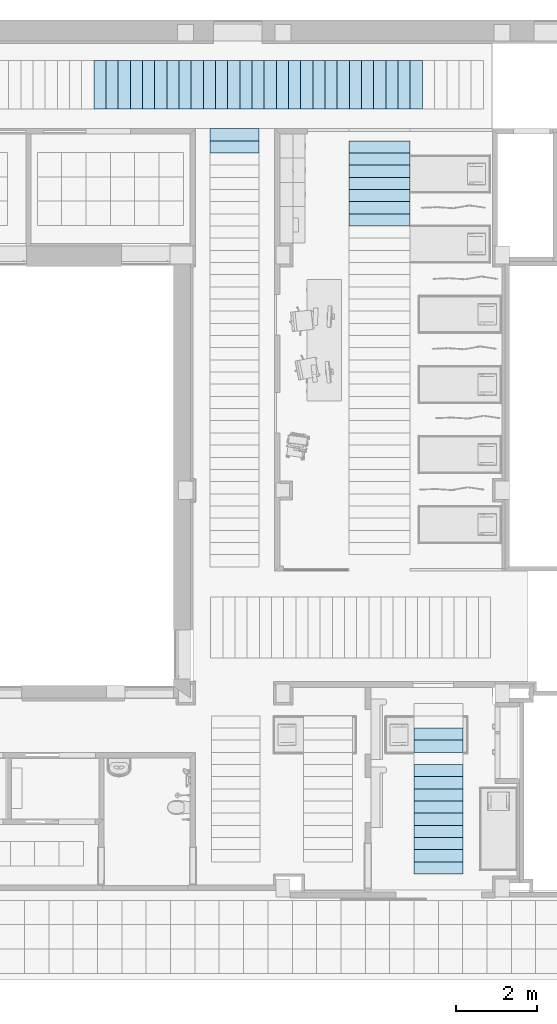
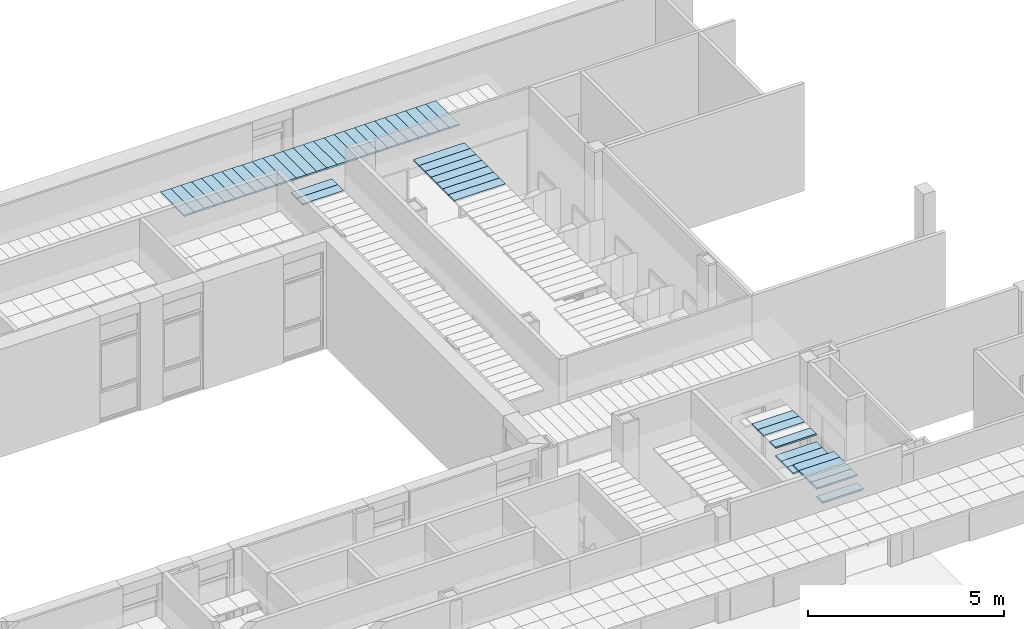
# One storey, part 12 of 68: 47 slabs.
"""IFC2X3 building model written with IfcOpenShell, lengths in millimetres."""

from ifc_helpers import new_model, entity, si_unit, converted_unit, derived_unit, money_unit, direction, frame, origin_with_axes, place, context, subcontext, project, spatial, polyline, outline, extrude, material, layer, layer_set, layer_usage, type_object, element, save


model = new_model("IFC2X3")

# Units and contexts
model_context = context("Model", 3, precision=0.01, world=origin_with_axes(), true_north=direction((0.0, 1.0)))
body_context = subcontext(model_context, "Body", "Model", "MODEL_VIEW")
ifc_project = project(units=[si_unit("LENGTHUNIT", "METRE", prefix="MILLI"), si_unit("AREAUNIT", "SQUARE_METRE"), si_unit("VOLUMEUNIT", "CUBIC_METRE"), converted_unit("PLANEANGLEUNIT", "DEGREE", entity("IfcPlaneAngleMeasure", 0.0174532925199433), si_unit("PLANEANGLEUNIT", "RADIAN"), dimensions=[0, 0, 0, 0, 0, 0, 0]), money_unit("USD"), converted_unit("TIMEUNIT", "Year", entity("IfcTimeMeasure", 31557600.0), si_unit("TIMEUNIT", "SECOND"), dimensions=[0, 0, 1, 0, 0, 0, 0]), si_unit("MASSUNIT", "GRAM", prefix="KILO"), si_unit("THERMODYNAMICTEMPERATUREUNIT", "DEGREE_CELSIUS"), si_unit("LUMINOUSINTENSITYUNIT", "LUMEN"), si_unit("ENERGYUNIT", "JOULE", prefix="MEGA"), derived_unit("THERMALCONDUCTANCEUNIT", [(si_unit("POWERUNIT", "WATT"), 1), (si_unit("LENGTHUNIT", "METRE"), -1), (si_unit("THERMODYNAMICTEMPERATUREUNIT", "KELVIN"), -1)]), derived_unit("SPECIFICHEATCAPACITYUNIT", [(si_unit("ENERGYUNIT", "JOULE"), 1), (si_unit("MASSUNIT", "GRAM", prefix="KILO"), -1), (si_unit("THERMODYNAMICTEMPERATUREUNIT", "KELVIN"), -1)]), derived_unit("MASSDENSITYUNIT", [(si_unit("MASSUNIT", "GRAM", prefix="KILO"), 1), (si_unit("VOLUMEUNIT", "CUBIC_METRE"), -1)])], contexts=[model_context])

# Site, building, storey
site_placement = place(None, origin_with_axes())
site = spatial("IfcSite", under=ifc_project, at=site_placement, Name="Sitio", CompositionType="ELEMENT")
building_placement = place(site_placement, origin_with_axes())
building = spatial("IfcBuilding", under=site, at=building_placement, Name="Construcción", CompositionType="ELEMENT")
storey_placement = place(building_placement, origin_with_axes())
storey = spatial("IfcBuildingStorey", under=building, at=storey_placement, Name="PLANTA 1ª", CompositionType="ELEMENT", Elevation=0.0)

# Slabs
ifc_material = material(Name="ARQ_ME126_CelRas_Placa_Metallica")
ifc_layer = layer(ifc_material, 50.0, ventilated="UNKNOWN")
ifc_layer_set = layer_set([ifc_layer], Name="ARQ_ME126_CelRas_Placa_Metallica 50")
ifc_layer_usage_1 = layer_usage(ifc_layer_set, "AXIS3", "NEGATIVE", 50.0)
slab_type = type_object("IfcSlabType", Name="ARQ_ME126_CelRas_Placa_Metallica 50", PredefinedType="NOTDEFINED")
slab_1_placement = place(storey_placement, frame((3832.900750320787, -16671.4759060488, 2250.0), z_axis=(0.0, 0.0, 1.0), x_axis=(1.0, 0.0, 0.0)))
element("IfcSlab", 1, at=slab_1_placement, inside=storey, type_object=slab_type, material=ifc_layer_usage_1, Name="SLA - 026", PredefinedType="NOTDEFINED", context=body_context, shape_type="SweptSolid", body=[
    extrude(outline(polyline([(0.0, 0.0), (1199.999999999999, 0.0), (1199.999999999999, 299.9999999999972), (0.0, 299.9999999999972), (0.0, 0.0)])), frame((0.0, 0.0, -50.0), z_axis=(0.0, 0.0, 1.0), x_axis=(1.0, 0.0, 0.0)), (0.0, 0.0, 1.0), 50.0),
])
ifc_layer_usage_2 = layer_usage(ifc_layer_set, "AXIS3", "NEGATIVE", 50.0)
slab_2_placement = place(storey_placement, frame((3832.900750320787, -16371.4759060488, 2500.0), z_axis=(0.0, 0.0, 1.0), x_axis=(1.0, 0.0, 0.0)))
element("IfcSlab", 2, at=slab_2_placement, inside=storey, type_object=slab_type, material=ifc_layer_usage_2, Name="SLA - 026", PredefinedType="NOTDEFINED", context=body_context, shape_type="SweptSolid", body=[
    extrude(outline(polyline([(0.0, 0.0), (1199.999999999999, 0.0), (1199.999999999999, 299.9999999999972), (0.0, 299.9999999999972), (0.0, 0.0)])), frame((0.0, 0.0, -50.0), z_axis=(0.0, 0.0, 1.0), x_axis=(1.0, 0.0, 0.0)), (0.0, 0.0, 1.0), 50.0),
])
ifc_layer_usage_3 = layer_usage(ifc_layer_set, "AXIS3", "NEGATIVE", 50.0)
slab_3_placement = place(storey_placement, frame((3832.900750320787, -15771.4759060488, 2500.0), z_axis=(0.0, 0.0, 1.0), x_axis=(1.0, 0.0, 0.0)))
element("IfcSlab", 3, at=slab_3_placement, inside=storey, type_object=slab_type, material=ifc_layer_usage_3, Name="SLA - 026", PredefinedType="NOTDEFINED", context=body_context, shape_type="SweptSolid", body=[
    extrude(outline(polyline([(0.0, 0.0), (1199.999999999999, 0.0), (1199.999999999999, 299.9999999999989), (0.0, 299.9999999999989), (0.0, 0.0)])), frame((0.0, 0.0, -50.0), z_axis=(0.0, 0.0, 1.0), x_axis=(1.0, 0.0, 0.0)), (0.0, 0.0, 1.0), 50.0),
])
ifc_layer_usage_4 = layer_usage(ifc_layer_set, "AXIS3", "NEGATIVE", 50.0)
slab_4_placement = place(storey_placement, frame((3832.900750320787, -15471.4759060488, 2500.0), z_axis=(0.0, 0.0, 1.0), x_axis=(1.0, 0.0, 0.0)))
element("IfcSlab", 4, at=slab_4_placement, inside=storey, type_object=slab_type, material=ifc_layer_usage_4, Name="SLA - 026", PredefinedType="NOTDEFINED", context=body_context, shape_type="SweptSolid", body=[
    extrude(outline(polyline([(0.0, 0.0), (1199.999999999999, 0.0), (1199.999999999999, 299.9999999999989), (0.0, 299.9999999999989), (0.0, 0.0)])), frame((0.0, 0.0, -50.0), z_axis=(0.0, 0.0, 1.0), x_axis=(1.0, 0.0, 0.0)), (0.0, 0.0, 1.0), 50.0),
])
ifc_layer_usage_5 = layer_usage(ifc_layer_set, "AXIS3", "NEGATIVE", 50.0)
slab_5_placement = place(storey_placement, frame((3832.900750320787, -16071.4759060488, 2500.0), z_axis=(0.0, 0.0, 1.0), x_axis=(1.0, 0.0, 0.0)))
element("IfcSlab", 5, at=slab_5_placement, inside=storey, type_object=slab_type, material=ifc_layer_usage_5, Name="SLA - 026", PredefinedType="NOTDEFINED", context=body_context, shape_type="SweptSolid", body=[
    extrude(outline(polyline([(0.0, 0.0), (1199.999999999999, 0.0), (1199.999999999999, 299.9999999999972), (0.0, 299.9999999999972), (0.0, 0.0)])), frame((0.0, 0.0, -50.0), z_axis=(0.0, 0.0, 1.0), x_axis=(1.0, 0.0, 0.0)), (0.0, 0.0, 1.0), 50.0),
])
ifc_layer_usage_6 = layer_usage(ifc_layer_set, "AXIS3", "NEGATIVE", 50.0)
slab_6_placement = place(storey_placement, frame((3832.900750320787, -14871.4759060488, 2250.0), z_axis=(0.0, 0.0, 1.0), x_axis=(1.0, 0.0, 0.0)))
element("IfcSlab", 6, at=slab_6_placement, inside=storey, type_object=slab_type, material=ifc_layer_usage_6, Name="SLA - 026", PredefinedType="NOTDEFINED", context=body_context, shape_type="SweptSolid", body=[
    extrude(outline(polyline([(0.0, 0.0), (1199.999999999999, 0.0), (1199.999999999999, 299.9999999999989), (0.0, 299.9999999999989), (0.0, 0.0)])), frame((0.0, 0.0, -50.0), z_axis=(0.0, 0.0, 1.0), x_axis=(1.0, 0.0, 0.0)), (0.0, 0.0, 1.0), 50.0),
])
ifc_layer_usage_7 = layer_usage(ifc_layer_set, "AXIS3", "NEGATIVE", 50.0)
slab_7_placement = place(storey_placement, frame((3832.900750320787, -14571.4759060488, 2250.0), z_axis=(0.0, 0.0, 1.0), x_axis=(1.0, 0.0, 0.0)))
element("IfcSlab", 7, at=slab_7_placement, inside=storey, type_object=slab_type, material=ifc_layer_usage_7, Name="SLA - 026", PredefinedType="NOTDEFINED", context=body_context, shape_type="SweptSolid", body=[
    extrude(outline(polyline([(0.0, 0.0), (1199.999999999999, 0.0), (1199.999999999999, 299.9999999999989), (0.0, 299.9999999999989), (0.0, 0.0)])), frame((0.0, 0.0, -50.0), z_axis=(0.0, 0.0, 1.0), x_axis=(1.0, 0.0, 0.0)), (0.0, 0.0, 1.0), 50.0),
])
ifc_layer_usage_8 = layer_usage(ifc_layer_set, "AXIS3", "NEGATIVE", 50.0)
slab_8_placement = place(storey_placement, frame((3832.900750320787, -14271.4759060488, 2500.0), z_axis=(0.0, 0.0, 1.0), x_axis=(1.0, 0.0, 0.0)))
element("IfcSlab", 8, at=slab_8_placement, inside=storey, type_object=slab_type, material=ifc_layer_usage_8, Name="SLA - 026", PredefinedType="NOTDEFINED", context=body_context, shape_type="SweptSolid", body=[
    extrude(outline(polyline([(0.0, 0.0), (1199.999999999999, 0.0), (1199.999999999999, 299.9999999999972), (0.0, 299.9999999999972), (0.0, 0.0)])), frame((0.0, 0.0, -50.0), z_axis=(0.0, 0.0, 1.0), x_axis=(1.0, 0.0, 0.0)), (0.0, 0.0, 1.0), 50.0),
])
ifc_layer_usage_9 = layer_usage(ifc_layer_set, "AXIS3", "NEGATIVE", 50.0)
slab_9_placement = place(storey_placement, frame((3832.900750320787, -15171.4759060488, 2250.0), z_axis=(0.0, 0.0, 1.0), x_axis=(1.0, 0.0, 0.0)))
element("IfcSlab", 9, at=slab_9_placement, inside=storey, type_object=slab_type, material=ifc_layer_usage_9, Name="SLA - 026", PredefinedType="NOTDEFINED", context=body_context, shape_type="SweptSolid", body=[
    extrude(outline(polyline([(0.0, 0.0), (1199.999999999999, 0.0), (1199.999999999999, 299.9999999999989), (0.0, 299.9999999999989), (0.0, 0.0)])), frame((0.0, 0.0, -50.0), z_axis=(0.0, 0.0, 1.0), x_axis=(1.0, 0.0, 0.0)), (0.0, 0.0, 1.0), 50.0),
])
ifc_layer_usage_10 = layer_usage(ifc_layer_set, "AXIS3", "NEGATIVE", 50.0)
slab_10_placement = place(storey_placement, frame((3832.900750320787, -13671.4759060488, 2500.0), z_axis=(0.0, 0.0, 1.0), x_axis=(1.0, 0.0, 0.0)))
element("IfcSlab", 10, at=slab_10_placement, inside=storey, type_object=slab_type, material=ifc_layer_usage_10, Name="SLA - 026", PredefinedType="NOTDEFINED", context=body_context, shape_type="SweptSolid", body=[
    extrude(outline(polyline([(0.0, 0.0), (1199.999999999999, 0.0), (1199.999999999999, 299.9999999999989), (0.0, 299.9999999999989), (0.0, 0.0)])), frame((0.0, 0.0, -50.0), z_axis=(0.0, 0.0, 1.0), x_axis=(1.0, 0.0, 0.0)), (0.0, 0.0, 1.0), 50.0),
])
ifc_layer_usage_11 = layer_usage(ifc_layer_set, "AXIS3", "NEGATIVE", 50.0)
slab_11_placement = place(storey_placement, frame((3832.900750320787, -13371.4759060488, 2500.0), z_axis=(0.0, 0.0, 1.0), x_axis=(1.0, 0.0, 0.0)))
element("IfcSlab", 11, at=slab_11_placement, inside=storey, type_object=slab_type, material=ifc_layer_usage_11, Name="SLA - 026", PredefinedType="NOTDEFINED", context=body_context, shape_type="SweptSolid", body=[
    extrude(outline(polyline([(0.0, 0.0), (1199.999999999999, 0.0), (1199.999999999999, 299.9999999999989), (0.0, 299.9999999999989), (0.0, 0.0)])), frame((0.0, 0.0, -50.0), z_axis=(0.0, 0.0, 1.0), x_axis=(1.0, 0.0, 0.0)), (0.0, 0.0, 1.0), 50.0),
])
ifc_layer_usage_12 = layer_usage(ifc_layer_set, "AXIS3", "NEGATIVE", 50.0)
slab_12_placement = place(storey_placement, frame((-1192.609613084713, 1100.853055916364, 2500.0), z_axis=(0.0, 0.0, 1.0), x_axis=(1.0, 0.0, 0.0)))
element("IfcSlab", 12, at=slab_12_placement, inside=storey, type_object=slab_type, material=ifc_layer_usage_12, Name="SLA - 026", PredefinedType="NOTDEFINED", context=body_context, shape_type="SweptSolid", body=[
    extrude(outline(polyline([(0.0, 0.0), (1200.0, 0.0), (1200.0, 299.9999999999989), (0.0, 299.9999999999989), (0.0, 0.0)])), frame((0.0, 0.0, -50.0), z_axis=(0.0, 0.0, 1.0), x_axis=(1.0, 0.0, 0.0)), (0.0, 0.0, 1.0), 50.0),
])
ifc_layer_usage_13 = layer_usage(ifc_layer_set, "AXIS3", "NEGATIVE", 50.0)
slab_13_placement = place(storey_placement, frame((-1192.609613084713, 1400.853055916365, 2500.0), z_axis=(0.0, 0.0, 1.0), x_axis=(1.0, 0.0, 0.0)))
element("IfcSlab", 13, at=slab_13_placement, inside=storey, type_object=slab_type, material=ifc_layer_usage_13, Name="SLA - 026", PredefinedType="NOTDEFINED", context=body_context, shape_type="SweptSolid", body=[
    extrude(outline(polyline([(0.0, 0.0), (1200.0, 0.0), (1200.0, 299.9999999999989), (0.0, 299.9999999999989), (0.0, 0.0)])), frame((0.0, 0.0, -50.0), z_axis=(0.0, 0.0, 1.0), x_axis=(1.0, 0.0, 0.0)), (0.0, 0.0, 1.0), 50.0),
])
ifc_layer_usage_14 = layer_usage(ifc_layer_set, "AXIS3", "NEGATIVE", 50.0)
slab_14_placement = place(storey_placement, frame((3726.829256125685, 1400.853055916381, 2500.0), z_axis=(0.0, 0.0, 1.0), x_axis=(1.0, 0.0, 0.0)))
element("IfcSlab", 14, at=slab_14_placement, inside=storey, type_object=slab_type, material=ifc_layer_usage_14, Name="SLA - 026", PredefinedType="NOTDEFINED", context=body_context, shape_type="SweptSolid", body=[
    extrude(outline(polyline([(0.0, 0.0), (-1500.0, 0.0), (-1500.0, -299.9999999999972), (0.0, -299.9999999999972), (0.0, 0.0)])), frame((0.0, 0.0, -50.0), z_axis=(0.0, 0.0, 1.0), x_axis=(1.0, 0.0, 0.0)), (0.0, 0.0, 1.0), 50.0),
])
ifc_layer_usage_15 = layer_usage(ifc_layer_set, "AXIS3", "NEGATIVE", 50.0)
slab_15_placement = place(storey_placement, frame((-3461.682865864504, 3382.153621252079, 2500.0), z_axis=(0.0, 0.0, 1.0), x_axis=(1.0, 0.0, 0.0)))
element("IfcSlab", 15, at=slab_15_placement, inside=storey, type_object=slab_type, material=ifc_layer_usage_15, Name="SLA - 026", PredefinedType="NOTDEFINED", context=body_context, shape_type="SweptSolid", body=[
    extrude(outline(polyline([(0.0, 0.0), (0.0, -1199.999999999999), (300.0000000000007, -1199.999999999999), (300.0000000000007, 0.0), (0.0, 0.0)])), frame((0.0, 0.0, -50.0), z_axis=(0.0, 0.0, 1.0), x_axis=(1.0, 0.0, 0.0)), (0.0, 0.0, 1.0), 50.0),
])
ifc_layer_usage_16 = layer_usage(ifc_layer_set, "AXIS3", "NEGATIVE", 50.0)
slab_16_placement = place(storey_placement, frame((3738.317134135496, 3382.153621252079, 2500.0), z_axis=(0.0, 0.0, 1.0), x_axis=(1.0, 0.0, 0.0)))
element("IfcSlab", 16, at=slab_16_placement, inside=storey, type_object=slab_type, material=ifc_layer_usage_16, Name="SLA - 026", PredefinedType="NOTDEFINED", context=body_context, shape_type="SweptSolid", body=[
    extrude(outline(polyline([(0.0, 0.0), (0.0, -1199.999999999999), (300.0000000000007, -1199.999999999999), (300.0000000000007, 0.0), (0.0, 0.0)])), frame((0.0, 0.0, -50.0), z_axis=(0.0, 0.0, 1.0), x_axis=(1.0, 0.0, 0.0)), (0.0, 0.0, 1.0), 50.0),
])
ifc_layer_usage_17 = layer_usage(ifc_layer_set, "AXIS3", "NEGATIVE", 50.0)
slab_17_placement = place(storey_placement, frame((3438.317134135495, 3382.153621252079, 2500.0), z_axis=(0.0, 0.0, 1.0), x_axis=(1.0, 0.0, 0.0)))
element("IfcSlab", 17, at=slab_17_placement, inside=storey, type_object=slab_type, material=ifc_layer_usage_17, Name="SLA - 026", PredefinedType="NOTDEFINED", context=body_context, shape_type="SweptSolid", body=[
    extrude(outline(polyline([(0.0, 0.0), (0.0, -1199.999999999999), (300.0000000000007, -1199.999999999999), (300.0000000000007, 0.0), (0.0, 0.0)])), frame((0.0, 0.0, -50.0), z_axis=(0.0, 0.0, 1.0), x_axis=(1.0, 0.0, 0.0)), (0.0, 0.0, 1.0), 50.0),
])
ifc_layer_usage_18 = layer_usage(ifc_layer_set, "AXIS3", "NEGATIVE", 50.0)
slab_18_placement = place(storey_placement, frame((3138.317134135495, 3382.153621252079, 2500.0), z_axis=(0.0, 0.0, 1.0), x_axis=(1.0, 0.0, 0.0)))
element("IfcSlab", 18, at=slab_18_placement, inside=storey, type_object=slab_type, material=ifc_layer_usage_18, Name="SLA - 026", PredefinedType="NOTDEFINED", context=body_context, shape_type="SweptSolid", body=[
    extrude(outline(polyline([(0.0, 0.0), (0.0, -1199.999999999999), (300.0000000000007, -1199.999999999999), (300.0000000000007, 0.0), (0.0, 0.0)])), frame((0.0, 0.0, -50.0), z_axis=(0.0, 0.0, 1.0), x_axis=(1.0, 0.0, 0.0)), (0.0, 0.0, 1.0), 50.0),
])
ifc_layer_usage_19 = layer_usage(ifc_layer_set, "AXIS3", "NEGATIVE", 50.0)
slab_19_placement = place(storey_placement, frame((2838.317134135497, 3382.153621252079, 2500.0), z_axis=(0.0, 0.0, 1.0), x_axis=(1.0, 0.0, 0.0)))
element("IfcSlab", 19, at=slab_19_placement, inside=storey, type_object=slab_type, material=ifc_layer_usage_19, Name="SLA - 026", PredefinedType="NOTDEFINED", context=body_context, shape_type="SweptSolid", body=[
    extrude(outline(polyline([(0.0, 0.0), (0.0, -1199.999999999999), (300.0000000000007, -1199.999999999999), (300.0000000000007, 0.0), (0.0, 0.0)])), frame((0.0, 0.0, -50.0), z_axis=(0.0, 0.0, 1.0), x_axis=(1.0, 0.0, 0.0)), (0.0, 0.0, 1.0), 50.0),
])
ifc_layer_usage_20 = layer_usage(ifc_layer_set, "AXIS3", "NEGATIVE", 50.0)
slab_20_placement = place(storey_placement, frame((2538.317134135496, 3382.153621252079, 2500.0), z_axis=(0.0, 0.0, 1.0), x_axis=(1.0, 0.0, 0.0)))
element("IfcSlab", 20, at=slab_20_placement, inside=storey, type_object=slab_type, material=ifc_layer_usage_20, Name="SLA - 026", PredefinedType="NOTDEFINED", context=body_context, shape_type="SweptSolid", body=[
    extrude(outline(polyline([(0.0, 0.0), (0.0, -1199.999999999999), (300.0000000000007, -1199.999999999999), (300.0000000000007, 0.0), (0.0, 0.0)])), frame((0.0, 0.0, -50.0), z_axis=(0.0, 0.0, 1.0), x_axis=(1.0, 0.0, 0.0)), (0.0, 0.0, 1.0), 50.0),
])
ifc_layer_usage_21 = layer_usage(ifc_layer_set, "AXIS3", "NEGATIVE", 50.0)
slab_21_placement = place(storey_placement, frame((2238.317134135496, 3382.153621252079, 2500.0), z_axis=(0.0, 0.0, 1.0), x_axis=(1.0, 0.0, 0.0)))
element("IfcSlab", 21, at=slab_21_placement, inside=storey, type_object=slab_type, material=ifc_layer_usage_21, Name="SLA - 026", PredefinedType="NOTDEFINED", context=body_context, shape_type="SweptSolid", body=[
    extrude(outline(polyline([(0.0, 0.0), (0.0, -1199.999999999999), (300.0000000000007, -1199.999999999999), (300.0000000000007, 0.0), (0.0, 0.0)])), frame((0.0, 0.0, -50.0), z_axis=(0.0, 0.0, 1.0), x_axis=(1.0, 0.0, 0.0)), (0.0, 0.0, 1.0), 50.0),
])
ifc_layer_usage_22 = layer_usage(ifc_layer_set, "AXIS3", "NEGATIVE", 50.0)
slab_22_placement = place(storey_placement, frame((1938.317134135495, 3382.153621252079, 2500.0), z_axis=(0.0, 0.0, 1.0), x_axis=(1.0, 0.0, 0.0)))
element("IfcSlab", 22, at=slab_22_placement, inside=storey, type_object=slab_type, material=ifc_layer_usage_22, Name="SLA - 026", PredefinedType="NOTDEFINED", context=body_context, shape_type="SweptSolid", body=[
    extrude(outline(polyline([(0.0, 0.0), (0.0, -1199.999999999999), (300.0000000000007, -1199.999999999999), (300.0000000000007, 0.0), (0.0, 0.0)])), frame((0.0, 0.0, -50.0), z_axis=(0.0, 0.0, 1.0), x_axis=(1.0, 0.0, 0.0)), (0.0, 0.0, 1.0), 50.0),
])
ifc_layer_usage_23 = layer_usage(ifc_layer_set, "AXIS3", "NEGATIVE", 50.0)
slab_23_placement = place(storey_placement, frame((1638.317134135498, 3382.153621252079, 2500.0), z_axis=(0.0, 0.0, 1.0), x_axis=(1.0, 0.0, 0.0)))
element("IfcSlab", 23, at=slab_23_placement, inside=storey, type_object=slab_type, material=ifc_layer_usage_23, Name="SLA - 026", PredefinedType="NOTDEFINED", context=body_context, shape_type="SweptSolid", body=[
    extrude(outline(polyline([(0.0, 0.0), (0.0, -1199.999999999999), (300.0000000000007, -1199.999999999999), (300.0000000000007, 0.0), (0.0, 0.0)])), frame((0.0, 0.0, -50.0), z_axis=(0.0, 0.0, 1.0), x_axis=(1.0, 0.0, 0.0)), (0.0, 0.0, 1.0), 50.0),
])
ifc_layer_usage_24 = layer_usage(ifc_layer_set, "AXIS3", "NEGATIVE", 50.0)
slab_24_placement = place(storey_placement, frame((1338.317134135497, 3382.153621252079, 2500.0), z_axis=(0.0, 0.0, 1.0), x_axis=(1.0, 0.0, 0.0)))
element("IfcSlab", 24, at=slab_24_placement, inside=storey, type_object=slab_type, material=ifc_layer_usage_24, Name="SLA - 026", PredefinedType="NOTDEFINED", context=body_context, shape_type="SweptSolid", body=[
    extrude(outline(polyline([(0.0, 0.0), (0.0, -1199.999999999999), (300.0000000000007, -1199.999999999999), (300.0000000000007, 0.0), (0.0, 0.0)])), frame((0.0, 0.0, -50.0), z_axis=(0.0, 0.0, 1.0), x_axis=(1.0, 0.0, 0.0)), (0.0, 0.0, 1.0), 50.0),
])
ifc_layer_usage_25 = layer_usage(ifc_layer_set, "AXIS3", "NEGATIVE", 50.0)
slab_25_placement = place(storey_placement, frame((1038.317134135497, 3382.153621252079, 2500.0), z_axis=(0.0, 0.0, 1.0), x_axis=(1.0, 0.0, 0.0)))
element("IfcSlab", 25, at=slab_25_placement, inside=storey, type_object=slab_type, material=ifc_layer_usage_25, Name="SLA - 026", PredefinedType="NOTDEFINED", context=body_context, shape_type="SweptSolid", body=[
    extrude(outline(polyline([(0.0, 0.0), (0.0, -1199.999999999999), (300.0000000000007, -1199.999999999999), (300.0000000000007, 0.0), (0.0, 0.0)])), frame((0.0, 0.0, -50.0), z_axis=(0.0, 0.0, 1.0), x_axis=(1.0, 0.0, 0.0)), (0.0, 0.0, 1.0), 50.0),
])
ifc_layer_usage_26 = layer_usage(ifc_layer_set, "AXIS3", "NEGATIVE", 50.0)
slab_26_placement = place(storey_placement, frame((738.317134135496, 3382.153621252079, 2500.0), z_axis=(0.0, 0.0, 1.0), x_axis=(1.0, 0.0, 0.0)))
element("IfcSlab", 26, at=slab_26_placement, inside=storey, type_object=slab_type, material=ifc_layer_usage_26, Name="SLA - 026", PredefinedType="NOTDEFINED", context=body_context, shape_type="SweptSolid", body=[
    extrude(outline(polyline([(0.0, 0.0), (0.0, -1199.999999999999), (300.0000000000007, -1199.999999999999), (300.0000000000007, 0.0), (0.0, 0.0)])), frame((0.0, 0.0, -50.0), z_axis=(0.0, 0.0, 1.0), x_axis=(1.0, 0.0, 0.0)), (0.0, 0.0, 1.0), 50.0),
])
ifc_layer_usage_27 = layer_usage(ifc_layer_set, "AXIS3", "NEGATIVE", 50.0)
slab_27_placement = place(storey_placement, frame((438.3171341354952, 3382.153621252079, 2500.0), z_axis=(0.0, 0.0, 1.0), x_axis=(1.0, 0.0, 0.0)))
element("IfcSlab", 27, at=slab_27_placement, inside=storey, type_object=slab_type, material=ifc_layer_usage_27, Name="SLA - 026", PredefinedType="NOTDEFINED", context=body_context, shape_type="SweptSolid", body=[
    extrude(outline(polyline([(0.0, 0.0), (0.0, -1199.999999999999), (300.0000000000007, -1199.999999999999), (300.0000000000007, 0.0), (0.0, 0.0)])), frame((0.0, 0.0, -50.0), z_axis=(0.0, 0.0, 1.0), x_axis=(1.0, 0.0, 0.0)), (0.0, 0.0, 1.0), 50.0),
])
ifc_layer_usage_28 = layer_usage(ifc_layer_set, "AXIS3", "NEGATIVE", 50.0)
slab_28_placement = place(storey_placement, frame((138.3171341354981, 3382.153621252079, 2500.0), z_axis=(0.0, 0.0, 1.0), x_axis=(1.0, 0.0, 0.0)))
element("IfcSlab", 28, at=slab_28_placement, inside=storey, type_object=slab_type, material=ifc_layer_usage_28, Name="SLA - 026", PredefinedType="NOTDEFINED", context=body_context, shape_type="SweptSolid", body=[
    extrude(outline(polyline([(0.0, 0.0), (0.0, -1199.999999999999), (300.0000000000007, -1199.999999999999), (300.0000000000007, 0.0), (0.0, 0.0)])), frame((0.0, 0.0, -50.0), z_axis=(0.0, 0.0, 1.0), x_axis=(1.0, 0.0, 0.0)), (0.0, 0.0, 1.0), 50.0),
])
ifc_layer_usage_29 = layer_usage(ifc_layer_set, "AXIS3", "NEGATIVE", 50.0)
slab_29_placement = place(storey_placement, frame((-761.682865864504, 3382.153621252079, 2500.0), z_axis=(0.0, 0.0, 1.0), x_axis=(1.0, 0.0, 0.0)))
element("IfcSlab", 29, at=slab_29_placement, inside=storey, type_object=slab_type, material=ifc_layer_usage_29, Name="SLA - 026", PredefinedType="NOTDEFINED", context=body_context, shape_type="SweptSolid", body=[
    extrude(outline(polyline([(0.0, 0.0), (0.0, -1199.999999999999), (300.0000000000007, -1199.999999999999), (300.0000000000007, 0.0), (0.0, 0.0)])), frame((0.0, 0.0, -50.0), z_axis=(0.0, 0.0, 1.0), x_axis=(1.0, 0.0, 0.0)), (0.0, 0.0, 1.0), 50.0),
])
ifc_layer_usage_30 = layer_usage(ifc_layer_set, "AXIS3", "NEGATIVE", 50.0)
slab_30_placement = place(storey_placement, frame((-461.6828658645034, 3382.153621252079, 2500.0), z_axis=(0.0, 0.0, 1.0), x_axis=(1.0, 0.0, 0.0)))
element("IfcSlab", 30, at=slab_30_placement, inside=storey, type_object=slab_type, material=ifc_layer_usage_30, Name="SLA - 026", PredefinedType="NOTDEFINED", context=body_context, shape_type="SweptSolid", body=[
    extrude(outline(polyline([(0.0, 0.0), (0.0, -1199.999999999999), (300.0000000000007, -1199.999999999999), (300.0000000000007, 0.0), (0.0, 0.0)])), frame((0.0, 0.0, -50.0), z_axis=(0.0, 0.0, 1.0), x_axis=(1.0, 0.0, 0.0)), (0.0, 0.0, 1.0), 50.0),
])
ifc_layer_usage_31 = layer_usage(ifc_layer_set, "AXIS3", "NEGATIVE", 50.0)
slab_31_placement = place(storey_placement, frame((-161.6828658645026, 3382.153621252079, 2500.0), z_axis=(0.0, 0.0, 1.0), x_axis=(1.0, 0.0, 0.0)))
element("IfcSlab", 31, at=slab_31_placement, inside=storey, type_object=slab_type, material=ifc_layer_usage_31, Name="SLA - 026", PredefinedType="NOTDEFINED", context=body_context, shape_type="SweptSolid", body=[
    extrude(outline(polyline([(0.0, 0.0), (0.0, -1199.999999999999), (300.0000000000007, -1199.999999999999), (300.0000000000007, 0.0), (0.0, 0.0)])), frame((0.0, 0.0, -50.0), z_axis=(0.0, 0.0, 1.0), x_axis=(1.0, 0.0, 0.0)), (0.0, 0.0, 1.0), 50.0),
])
ifc_layer_usage_32 = layer_usage(ifc_layer_set, "AXIS3", "NEGATIVE", 50.0)
slab_32_placement = place(storey_placement, frame((-1061.682865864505, 3382.153621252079, 2500.0), z_axis=(0.0, 0.0, 1.0), x_axis=(1.0, 0.0, 0.0)))
element("IfcSlab", 32, at=slab_32_placement, inside=storey, type_object=slab_type, material=ifc_layer_usage_32, Name="SLA - 026", PredefinedType="NOTDEFINED", context=body_context, shape_type="SweptSolid", body=[
    extrude(outline(polyline([(0.0, 0.0), (0.0, -1199.999999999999), (300.0000000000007, -1199.999999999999), (300.0000000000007, 0.0), (0.0, 0.0)])), frame((0.0, 0.0, -50.0), z_axis=(0.0, 0.0, 1.0), x_axis=(1.0, 0.0, 0.0)), (0.0, 0.0, 1.0), 50.0),
])
ifc_layer_usage_33 = layer_usage(ifc_layer_set, "AXIS3", "NEGATIVE", 50.0)
slab_33_placement = place(storey_placement, frame((-1361.682865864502, 3382.153621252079, 2500.0), z_axis=(0.0, 0.0, 1.0), x_axis=(1.0, 0.0, 0.0)))
element("IfcSlab", 33, at=slab_33_placement, inside=storey, type_object=slab_type, material=ifc_layer_usage_33, Name="SLA - 026", PredefinedType="NOTDEFINED", context=body_context, shape_type="SweptSolid", body=[
    extrude(outline(polyline([(0.0, 0.0), (0.0, -1199.999999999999), (300.0000000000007, -1199.999999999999), (300.0000000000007, 0.0), (0.0, 0.0)])), frame((0.0, 0.0, -50.0), z_axis=(0.0, 0.0, 1.0), x_axis=(1.0, 0.0, 0.0)), (0.0, 0.0, 1.0), 50.0),
])
ifc_layer_usage_34 = layer_usage(ifc_layer_set, "AXIS3", "NEGATIVE", 50.0)
slab_34_placement = place(storey_placement, frame((-1661.682865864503, 3382.153621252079, 2500.0), z_axis=(0.0, 0.0, 1.0), x_axis=(1.0, 0.0, 0.0)))
element("IfcSlab", 34, at=slab_34_placement, inside=storey, type_object=slab_type, material=ifc_layer_usage_34, Name="SLA - 026", PredefinedType="NOTDEFINED", context=body_context, shape_type="SweptSolid", body=[
    extrude(outline(polyline([(0.0, 0.0), (0.0, -1199.999999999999), (300.0000000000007, -1199.999999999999), (300.0000000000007, 0.0), (0.0, 0.0)])), frame((0.0, 0.0, -50.0), z_axis=(0.0, 0.0, 1.0), x_axis=(1.0, 0.0, 0.0)), (0.0, 0.0, 1.0), 50.0),
])
ifc_layer_usage_35 = layer_usage(ifc_layer_set, "AXIS3", "NEGATIVE", 50.0)
slab_35_placement = place(storey_placement, frame((-1961.682865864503, 3382.153621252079, 2500.0), z_axis=(0.0, 0.0, 1.0), x_axis=(1.0, 0.0, 0.0)))
element("IfcSlab", 35, at=slab_35_placement, inside=storey, type_object=slab_type, material=ifc_layer_usage_35, Name="SLA - 026", PredefinedType="NOTDEFINED", context=body_context, shape_type="SweptSolid", body=[
    extrude(outline(polyline([(0.0, 0.0), (0.0, -1199.999999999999), (300.0000000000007, -1199.999999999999), (300.0000000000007, 0.0), (0.0, 0.0)])), frame((0.0, 0.0, -50.0), z_axis=(0.0, 0.0, 1.0), x_axis=(1.0, 0.0, 0.0)), (0.0, 0.0, 1.0), 50.0),
])
ifc_layer_usage_36 = layer_usage(ifc_layer_set, "AXIS3", "NEGATIVE", 50.0)
slab_36_placement = place(storey_placement, frame((-2261.682865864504, 3382.153621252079, 2500.0), z_axis=(0.0, 0.0, 1.0), x_axis=(1.0, 0.0, 0.0)))
element("IfcSlab", 36, at=slab_36_placement, inside=storey, type_object=slab_type, material=ifc_layer_usage_36, Name="SLA - 026", PredefinedType="NOTDEFINED", context=body_context, shape_type="SweptSolid", body=[
    extrude(outline(polyline([(0.0, 0.0), (0.0, -1199.999999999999), (300.0000000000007, -1199.999999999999), (300.0000000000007, 0.0), (0.0, 0.0)])), frame((0.0, 0.0, -50.0), z_axis=(0.0, 0.0, 1.0), x_axis=(1.0, 0.0, 0.0)), (0.0, 0.0, 1.0), 50.0),
])
ifc_layer_usage_37 = layer_usage(ifc_layer_set, "AXIS3", "NEGATIVE", 50.0)
slab_37_placement = place(storey_placement, frame((-2861.682865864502, 3382.153621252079, 2500.0), z_axis=(0.0, 0.0, 1.0), x_axis=(1.0, 0.0, 0.0)))
element("IfcSlab", 37, at=slab_37_placement, inside=storey, type_object=slab_type, material=ifc_layer_usage_37, Name="SLA - 026", PredefinedType="NOTDEFINED", context=body_context, shape_type="SweptSolid", body=[
    extrude(outline(polyline([(0.0, 0.0), (0.0, -1199.999999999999), (300.0000000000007, -1199.999999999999), (300.0000000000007, 0.0), (0.0, 0.0)])), frame((0.0, 0.0, -50.0), z_axis=(0.0, 0.0, 1.0), x_axis=(1.0, 0.0, 0.0)), (0.0, 0.0, 1.0), 50.0),
])
ifc_layer_usage_38 = layer_usage(ifc_layer_set, "AXIS3", "NEGATIVE", 50.0)
slab_38_placement = place(storey_placement, frame((-3161.682865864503, 3382.153621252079, 2500.0), z_axis=(0.0, 0.0, 1.0), x_axis=(1.0, 0.0, 0.0)))
element("IfcSlab", 38, at=slab_38_placement, inside=storey, type_object=slab_type, material=ifc_layer_usage_38, Name="SLA - 026", PredefinedType="NOTDEFINED", context=body_context, shape_type="SweptSolid", body=[
    extrude(outline(polyline([(0.0, 0.0), (0.0, -1199.999999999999), (300.0000000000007, -1199.999999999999), (300.0000000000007, 0.0), (0.0, 0.0)])), frame((0.0, 0.0, -50.0), z_axis=(0.0, 0.0, 1.0), x_axis=(1.0, 0.0, 0.0)), (0.0, 0.0, 1.0), 50.0),
])
ifc_layer_usage_39 = layer_usage(ifc_layer_set, "AXIS3", "NEGATIVE", 50.0)
slab_39_placement = place(storey_placement, frame((-2561.682865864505, 3382.153621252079, 2500.0), z_axis=(0.0, 0.0, 1.0), x_axis=(1.0, 0.0, 0.0)))
element("IfcSlab", 39, at=slab_39_placement, inside=storey, type_object=slab_type, material=ifc_layer_usage_39, Name="SLA - 026", PredefinedType="NOTDEFINED", context=body_context, shape_type="SweptSolid", body=[
    extrude(outline(polyline([(0.0, 0.0), (0.0, -1199.999999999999), (300.0000000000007, -1199.999999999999), (300.0000000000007, 0.0), (0.0, 0.0)])), frame((0.0, 0.0, -50.0), z_axis=(0.0, 0.0, 1.0), x_axis=(1.0, 0.0, 0.0)), (0.0, 0.0, 1.0), 50.0),
])
ifc_layer_usage_40 = layer_usage(ifc_layer_set, "AXIS3", "NEGATIVE", 50.0)
slab_40_placement = place(storey_placement, frame((-4061.682865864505, 3382.153621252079, 2500.0), z_axis=(0.0, 0.0, 1.0), x_axis=(1.0, 0.0, 0.0)))
element("IfcSlab", 40, at=slab_40_placement, inside=storey, type_object=slab_type, material=ifc_layer_usage_40, Name="SLA - 026", PredefinedType="NOTDEFINED", context=body_context, shape_type="SweptSolid", body=[
    extrude(outline(polyline([(0.0, 0.0), (0.0, -1199.999999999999), (300.0000000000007, -1199.999999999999), (300.0000000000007, 0.0), (0.0, 0.0)])), frame((0.0, 0.0, -50.0), z_axis=(0.0, 0.0, 1.0), x_axis=(1.0, 0.0, 0.0)), (0.0, 0.0, 1.0), 50.0),
])
ifc_layer_usage_41 = layer_usage(ifc_layer_set, "AXIS3", "NEGATIVE", 50.0)
slab_41_placement = place(storey_placement, frame((-3761.682865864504, 3382.153621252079, 2500.0), z_axis=(0.0, 0.0, 1.0), x_axis=(1.0, 0.0, 0.0)))
element("IfcSlab", 41, at=slab_41_placement, inside=storey, type_object=slab_type, material=ifc_layer_usage_41, Name="SLA - 026", PredefinedType="NOTDEFINED", context=body_context, shape_type="SweptSolid", body=[
    extrude(outline(polyline([(0.0, 0.0), (0.0, -1199.999999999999), (300.0000000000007, -1199.999999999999), (300.0000000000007, 0.0), (0.0, 0.0)])), frame((0.0, 0.0, -50.0), z_axis=(0.0, 0.0, 1.0), x_axis=(1.0, 0.0, 0.0)), (0.0, 0.0, 1.0), 50.0),
])
ifc_layer_usage_42 = layer_usage(ifc_layer_set, "AXIS3", "NEGATIVE", 50.0)
slab_42_placement = place(storey_placement, frame((3726.829256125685, -399.1469440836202, 2500.0), z_axis=(0.0, 0.0, 1.0), x_axis=(1.0, 0.0, 0.0)))
element("IfcSlab", 42, at=slab_42_placement, inside=storey, type_object=slab_type, material=ifc_layer_usage_42, Name="SLA - 026", PredefinedType="NOTDEFINED", context=body_context, shape_type="SweptSolid", body=[
    extrude(outline(polyline([(0.0, 0.0), (-1500.0, 0.0), (-1500.0, -299.9999999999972), (0.0, -299.9999999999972), (0.0, 0.0)])), frame((0.0, 0.0, -50.0), z_axis=(0.0, 0.0, 1.0), x_axis=(1.0, 0.0, 0.0)), (0.0, 0.0, 1.0), 50.0),
])
ifc_layer_usage_43 = layer_usage(ifc_layer_set, "AXIS3", "NEGATIVE", 50.0)
slab_43_placement = place(storey_placement, frame((3726.829256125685, -99.14694408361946, 2500.0), z_axis=(0.0, 0.0, 1.0), x_axis=(1.0, 0.0, 0.0)))
element("IfcSlab", 43, at=slab_43_placement, inside=storey, type_object=slab_type, material=ifc_layer_usage_43, Name="SLA - 026", PredefinedType="NOTDEFINED", context=body_context, shape_type="SweptSolid", body=[
    extrude(outline(polyline([(0.0, 0.0), (-1500.0, 0.0), (-1500.0, -299.9999999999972), (0.0, -299.9999999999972), (0.0, 0.0)])), frame((0.0, 0.0, -50.0), z_axis=(0.0, 0.0, 1.0), x_axis=(1.0, 0.0, 0.0)), (0.0, 0.0, 1.0), 50.0),
])
ifc_layer_usage_44 = layer_usage(ifc_layer_set, "AXIS3", "NEGATIVE", 50.0)
slab_44_placement = place(storey_placement, frame((3726.829256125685, 500.8530559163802, 2500.0), z_axis=(0.0, 0.0, 1.0), x_axis=(1.0, 0.0, 0.0)))
element("IfcSlab", 44, at=slab_44_placement, inside=storey, type_object=slab_type, material=ifc_layer_usage_44, Name="SLA - 026", PredefinedType="NOTDEFINED", context=body_context, shape_type="SweptSolid", body=[
    extrude(outline(polyline([(0.0, 0.0), (-1500.0, 0.0), (-1500.0, -299.9999999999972), (0.0, -299.9999999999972), (0.0, 0.0)])), frame((0.0, 0.0, -50.0), z_axis=(0.0, 0.0, 1.0), x_axis=(1.0, 0.0, 0.0)), (0.0, 0.0, 1.0), 50.0),
])
ifc_layer_usage_45 = layer_usage(ifc_layer_set, "AXIS3", "NEGATIVE", 50.0)
slab_45_placement = place(storey_placement, frame((3726.829256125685, 800.8530559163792, 2500.0), z_axis=(0.0, 0.0, 1.0), x_axis=(1.0, 0.0, 0.0)))
element("IfcSlab", 45, at=slab_45_placement, inside=storey, type_object=slab_type, material=ifc_layer_usage_45, Name="SLA - 026", PredefinedType="NOTDEFINED", context=body_context, shape_type="SweptSolid", body=[
    extrude(outline(polyline([(0.0, 0.0), (-1500.0, 0.0), (-1500.0, -299.9999999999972), (0.0, -299.9999999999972), (0.0, 0.0)])), frame((0.0, 0.0, -50.0), z_axis=(0.0, 0.0, 1.0), x_axis=(1.0, 0.0, 0.0)), (0.0, 0.0, 1.0), 50.0),
])
ifc_layer_usage_46 = layer_usage(ifc_layer_set, "AXIS3", "NEGATIVE", 50.0)
slab_46_placement = place(storey_placement, frame((3726.829256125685, 200.8530559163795, 2500.0), z_axis=(0.0, 0.0, 1.0), x_axis=(1.0, 0.0, 0.0)))
element("IfcSlab", 46, at=slab_46_placement, inside=storey, type_object=slab_type, material=ifc_layer_usage_46, Name="SLA - 026", PredefinedType="NOTDEFINED", context=body_context, shape_type="SweptSolid", body=[
    extrude(outline(polyline([(0.0, 0.0), (-1500.0, 0.0), (-1500.0, -299.9999999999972), (0.0, -299.9999999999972), (0.0, 0.0)])), frame((0.0, 0.0, -50.0), z_axis=(0.0, 0.0, 1.0), x_axis=(1.0, 0.0, 0.0)), (0.0, 0.0, 1.0), 50.0),
])
ifc_layer_usage_47 = layer_usage(ifc_layer_set, "AXIS3", "NEGATIVE", 50.0)
slab_47_placement = place(storey_placement, frame((3726.829256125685, 1100.85305591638, 2500.0), z_axis=(0.0, 0.0, 1.0), x_axis=(1.0, 0.0, 0.0)))
element("IfcSlab", 47, at=slab_47_placement, inside=storey, type_object=slab_type, material=ifc_layer_usage_47, Name="SLA - 026", PredefinedType="NOTDEFINED", context=body_context, shape_type="SweptSolid", body=[
    extrude(outline(polyline([(0.0, 0.0), (-1500.0, 0.0), (-1500.0, -299.9999999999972), (0.0, -299.9999999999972), (0.0, 0.0)])), frame((0.0, 0.0, -50.0), z_axis=(0.0, 0.0, 1.0), x_axis=(1.0, 0.0, 0.0)), (0.0, 0.0, 1.0), 50.0),
])

save(model, "model.ifc")
